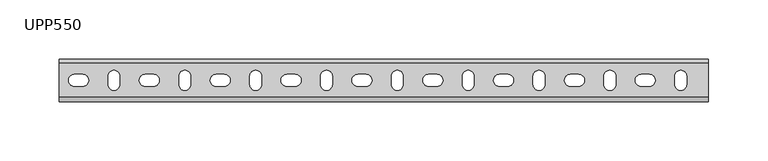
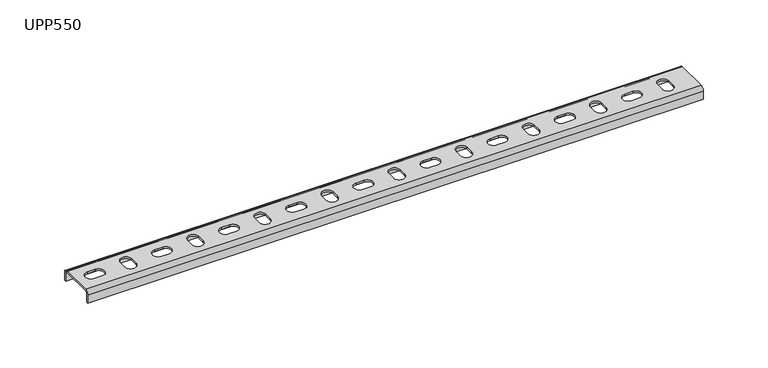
"""IFC4 building model written with IfcOpenShell, lengths in millimetres: proxy geometry, КМ Профиль_Универсальный поддерживающий профиль UPP : UPP550."""

from ifc_helpers import new_model, si_unit, frame, origin, place, context, project, spatial, polyline, circle_curve, source, transform, mapped, element, save
from ifc_brep_helpers import plane_surface, cylinder_surface, revolved_surface, advanced_brep


def upp550_d4d7eb24(model_context):
    return source(origin(), model_context, "Body", "AdvancedBrep", [
        advanced_brep(
        [(0.0, 16.5, -3.5), (0.0, 14.5, -1.5), (0.0, -14.5, -1.5), (0.0, -16.5, -3.5), (0.0, -16.5, -11.0), (0.0, -18.0, -11.0), (0.0, -18.0, -3.5), (0.0, -14.5, 0.0), (0.0, 14.5, 0.0), (0.0, 18.0, -3.5), (0.0, 18.0, -11.0), (0.0, 16.5, -11.0), (550.0, 14.5, -1.5), (550.0, 16.5, -3.5), (550.0, 16.5, -11.0), (550.0, 18.0, -11.0), (550.0, 18.0, -3.5), (550.0, 14.5, 0.0), (550.0, -14.5, 0.0), (550.0, -18.0, -3.5), (550.0, -18.0, -11.0), (550.0, -16.5, -11.0), (550.0, -16.5, -3.5), (550.0, -14.5, -1.5), (80.0, 5.0, -1.5), (73.0, 5.0, -1.5), (73.0, -5.0, -1.5), (80.0, -5.0, -1.5), (140.0, 5.0, -1.5), (133.0, 5.0, -1.5), (133.0, -5.0, -1.5), (140.0, -5.0, -1.5), (101.5, 3.5, -1.5), (101.5, -3.5, -1.5), (111.5, -3.5, -1.5), (111.5, 3.5, -1.5), (200.0, 5.0, -1.5), (193.0, 5.0, -1.5), (193.0, -5.0, -1.5), (200.0, -5.0, -1.5), (260.0, 5.0, -1.5), (253.0, 5.0, -1.5), (253.0, -5.0, -1.5), (260.0, -5.0, -1.5), (320.0, 5.0, -1.5), (313.0, 5.0, -1.5), (313.0, -5.0, -1.5), (320.0, -5.0, -1.5), (380.0, 5.0, -1.5), (373.0, 5.0, -1.5), (373.0, -5.0, -1.5), (380.0, -5.0, -1.5), (440.0, 5.0, -1.5), (433.0, 5.0, -1.5), (433.0, -5.0, -1.5), (440.0, -5.0, -1.5), (500.0, 5.0, -1.5), (493.0, 5.0, -1.5), (493.0, -5.0, -1.5), (500.0, -5.0, -1.5), (161.5, 3.5, -1.5), (161.5, -3.5, -1.5), (171.5, -3.5, -1.5), (171.5, 3.5, -1.5), (221.5, 3.5, -1.5), (221.5, -3.5, -1.5), (231.5, -3.5, -1.5), (231.5, 3.5, -1.5), (281.5, 3.5, -1.5), (281.5, -3.5, -1.5), (291.5, -3.5, -1.5), (291.5, 3.5, -1.5), (341.5, 3.5, -1.5), (341.5, -3.5, -1.5), (351.5, -3.5, -1.5), (351.5, 3.5, -1.5), (401.5, 3.5, -1.5), (401.5, -3.5, -1.5), (411.5, -3.5, -1.5), (411.5, 3.5, -1.5), (461.5, 3.5, -1.5), (461.5, -3.5, -1.5), (471.5, -3.5, -1.5), (471.5, 3.5, -1.5), (521.5, 3.5, -1.5), (521.5, -3.5, -1.5), (531.5, -3.5, -1.5), (531.5, 3.5, -1.5), (41.5, 3.5, -1.5), (41.5, -3.5, -1.5), (51.5, -3.5, -1.5), (51.5, 3.5, -1.5), (20.0, 5.0, -1.5), (13.0, 5.0, -1.5), (13.0, -5.0, -1.5), (20.0, -5.0, -1.5), (73.0, 5.0, 0.0), (80.0, 5.0, 0.0), (80.0, -5.0, 0.0), (73.0, -5.0, 0.0), (133.0, 5.0, 0.0), (140.0, 5.0, 0.0), (140.0, -5.0, 0.0), (133.0, -5.0, 0.0), (101.5, -3.5, 0.0), (101.5, 3.5, 0.0), (111.5, 3.5, 0.0), (111.5, -3.5, 0.0), (193.0, 5.0, 0.0), (200.0, 5.0, 0.0), (200.0, -5.0, 0.0), (193.0, -5.0, 0.0), (253.0, 5.0, 0.0), (260.0, 5.0, 0.0), (260.0, -5.0, 0.0), (253.0, -5.0, 0.0), (313.0, 5.0, 0.0), (320.0, 5.0, 0.0), (320.0, -5.0, 0.0), (313.0, -5.0, 0.0), (373.0, 5.0, 0.0), (380.0, 5.0, 0.0), (380.0, -5.0, 0.0), (373.0, -5.0, 0.0), (433.0, 5.0, 0.0), (440.0, 5.0, 0.0), (440.0, -5.0, 0.0), (433.0, -5.0, 0.0), (493.0, 5.0, 0.0), (500.0, 5.0, 0.0), (500.0, -5.0, 0.0), (493.0, -5.0, 0.0), (161.5, -3.5, 0.0), (161.5, 3.5, 0.0), (171.5, 3.5, 0.0), (171.5, -3.5, 0.0), (221.5, -3.5, 0.0), (221.5, 3.5, 0.0), (231.5, 3.5, 0.0), (231.5, -3.5, 0.0), (281.5, -3.5, 0.0), (281.5, 3.5, 0.0), (291.5, 3.5, 0.0), (291.5, -3.5, 0.0), (341.5, -3.5, 0.0), (341.5, 3.5, 0.0), (351.5, 3.5, 0.0), (351.5, -3.5, 0.0), (401.5, -3.5, 0.0), (401.5, 3.5, 0.0), (411.5, 3.5, 0.0), (411.5, -3.5, 0.0), (461.5, -3.5, 0.0), (461.5, 3.5, 0.0), (471.5, 3.5, 0.0), (471.5, -3.5, 0.0), (521.5, -3.5, 0.0), (521.5, 3.5, 0.0), (531.5, 3.5, 0.0), (531.5, -3.5, 0.0), (41.5, -3.5, 0.0), (41.5, 3.5, 0.0), (51.5, 3.5, 0.0), (51.5, -3.5, 0.0), (13.0, 5.0, 0.0), (20.0, 5.0, 0.0), (20.0, -5.0, 0.0), (13.0, -5.0, 0.0)],
        [
            (0, 1, circle_curve(frame((0.0, 14.5, -3.5), z_axis=(1.0, 0.0, 0.0), x_axis=(0.0, 1.0, 0.0)), 2.0)),
            (1, 2),
            (2, 3, circle_curve(frame((0.0, -14.5, -3.5), z_axis=(1.0, 0.0, 0.0), x_axis=(0.0, 1.0, 0.0)), 2.0)),
            (3, 4),
            (4, 5),
            (5, 6),
            (6, 7, circle_curve(frame((0.0, -14.5, -3.5), z_axis=(-1.0, 0.0, 0.0), x_axis=(0.0, 1.0, 0.0)), 3.5)),
            (7, 8),
            (8, 9, circle_curve(frame((0.0, 14.5, -3.5), z_axis=(-1.0, 0.0, 0.0), x_axis=(0.0, 1.0, 0.0)), 3.5)),
            (9, 10),
            (10, 11),
            (11, 0),
            (12, 13, circle_curve(frame((550.0, 14.5, -3.5), z_axis=(-1.0, 0.0, 0.0), x_axis=(0.0, 1.0, 0.0)), 2.0)),
            (13, 14),
            (14, 15),
            (15, 16),
            (16, 17, circle_curve(frame((550.0, 14.5, -3.5), z_axis=(1.0, 0.0, 0.0), x_axis=(0.0, 1.0, 0.0)), 3.5)),
            (17, 18),
            (18, 19, circle_curve(frame((550.0, -14.5, -3.5), z_axis=(1.0, 0.0, 0.0), x_axis=(0.0, 1.0, 0.0)), 3.5)),
            (19, 20),
            (20, 21),
            (21, 22),
            (22, 23, circle_curve(frame((550.0, -14.5, -3.5), z_axis=(-1.0, 0.0, 0.0), x_axis=(0.0, 1.0, 0.0)), 2.0)),
            (23, 12),
            (0, 13),
            (12, 1),
            (23, 2),
            (24, 25),
            (25, 26, circle_curve(frame((73.0, 0.0, -1.5), z_axis=(0.0, 0.0, 1.0), x_axis=(1.0, 0.0, 0.0)), 5.0)),
            (26, 27),
            (27, 24, circle_curve(frame((80.0, 0.0, -1.5), z_axis=(0.0, 0.0, 1.0), x_axis=(1.0, 0.0, 0.0)), 5.0)),
            (28, 29),
            (29, 30, circle_curve(frame((133.0, 0.0, -1.5), z_axis=(0.0, 0.0, 1.0), x_axis=(1.0, 0.0, 0.0)), 5.0)),
            (30, 31),
            (31, 28, circle_curve(frame((140.0, 0.0, -1.5), z_axis=(0.0, 0.0, 1.0), x_axis=(1.0, 0.0, 0.0)), 5.0)),
            (32, 33),
            (33, 34, circle_curve(frame((106.5, -3.5, -1.5), z_axis=(0.0, 0.0, 1.0), x_axis=(0.0, 1.0, 0.0)), 5.0)),
            (34, 35),
            (35, 32, circle_curve(frame((106.5, 3.5, -1.5), z_axis=(0.0, 0.0, 1.0), x_axis=(0.0, 1.0, 0.0)), 5.0)),
            (36, 37),
            (37, 38, circle_curve(frame((193.0, 0.0, -1.5), z_axis=(0.0, 0.0, 1.0), x_axis=(1.0, 0.0, 0.0)), 5.0)),
            (38, 39),
            (39, 36, circle_curve(frame((200.0, 0.0, -1.5), z_axis=(0.0, 0.0, 1.0), x_axis=(1.0, 0.0, 0.0)), 5.0)),
            (40, 41),
            (41, 42, circle_curve(frame((253.0, 0.0, -1.5), z_axis=(0.0, 0.0, 1.0), x_axis=(1.0, 0.0, 0.0)), 5.0)),
            (42, 43),
            (43, 40, circle_curve(frame((260.0, 0.0, -1.5), z_axis=(0.0, 0.0, 1.0), x_axis=(1.0, 0.0, 0.0)), 5.0)),
            (44, 45),
            (45, 46, circle_curve(frame((313.0, 0.0, -1.5), z_axis=(0.0, 0.0, 1.0), x_axis=(1.0, 0.0, 0.0)), 5.0)),
            (46, 47),
            (47, 44, circle_curve(frame((320.0, 0.0, -1.5), z_axis=(0.0, 0.0, 1.0), x_axis=(1.0, 0.0, 0.0)), 5.0)),
            (48, 49),
            (49, 50, circle_curve(frame((373.0, 0.0, -1.5), z_axis=(0.0, 0.0, 1.0), x_axis=(1.0, 0.0, 0.0)), 5.0)),
            (50, 51),
            (51, 48, circle_curve(frame((380.0, 0.0, -1.5), z_axis=(0.0, 0.0, 1.0), x_axis=(1.0, 0.0, 0.0)), 5.0)),
            (52, 53),
            (53, 54, circle_curve(frame((433.0, 0.0, -1.5), z_axis=(0.0, 0.0, 1.0), x_axis=(1.0, 0.0, 0.0)), 5.0)),
            (54, 55),
            (55, 52, circle_curve(frame((440.0, 0.0, -1.5), z_axis=(0.0, 0.0, 1.0), x_axis=(1.0, 0.0, 0.0)), 5.0)),
            (56, 57),
            (57, 58, circle_curve(frame((493.0, 0.0, -1.5), z_axis=(0.0, 0.0, 1.0), x_axis=(1.0, 0.0, 0.0)), 5.0)),
            (58, 59),
            (59, 56, circle_curve(frame((500.0, 0.0, -1.5), z_axis=(0.0, 0.0, 1.0), x_axis=(1.0, 0.0, 0.0)), 5.0)),
            (60, 61),
            (61, 62, circle_curve(frame((166.5, -3.5, -1.5), z_axis=(0.0, 0.0, 1.0), x_axis=(0.0, 1.0, 0.0)), 5.0)),
            (62, 63),
            (63, 60, circle_curve(frame((166.5, 3.5, -1.5), z_axis=(0.0, 0.0, 1.0), x_axis=(0.0, 1.0, 0.0)), 5.0)),
            (64, 65),
            (65, 66, circle_curve(frame((226.5, -3.5, -1.5), z_axis=(0.0, 0.0, 1.0), x_axis=(0.0, 1.0, 0.0)), 5.0)),
            (66, 67),
            (67, 64, circle_curve(frame((226.5, 3.5, -1.5), z_axis=(0.0, 0.0, 1.0), x_axis=(0.0, 1.0, 0.0)), 5.0)),
            (68, 69),
            (69, 70, circle_curve(frame((286.5, -3.5, -1.5), z_axis=(0.0, 0.0, 1.0), x_axis=(0.0, 1.0, 0.0)), 5.0)),
            (70, 71),
            (71, 68, circle_curve(frame((286.5, 3.5, -1.5), z_axis=(0.0, 0.0, 1.0), x_axis=(0.0, 1.0, 0.0)), 5.0)),
            (72, 73),
            (73, 74, circle_curve(frame((346.5, -3.5, -1.5), z_axis=(0.0, 0.0, 1.0), x_axis=(0.0, 1.0, 0.0)), 5.0)),
            (74, 75),
            (75, 72, circle_curve(frame((346.5, 3.5, -1.5), z_axis=(0.0, 0.0, 1.0), x_axis=(0.0, 1.0, 0.0)), 5.0)),
            (76, 77),
            (77, 78, circle_curve(frame((406.5, -3.5, -1.5), z_axis=(0.0, 0.0, 1.0), x_axis=(0.0, 1.0, 0.0)), 5.0)),
            (78, 79),
            (79, 76, circle_curve(frame((406.5, 3.5, -1.5), z_axis=(0.0, 0.0, 1.0), x_axis=(0.0, 1.0, 0.0)), 5.0)),
            (80, 81),
            (81, 82, circle_curve(frame((466.5, -3.5, -1.5), z_axis=(0.0, 0.0, 1.0), x_axis=(0.0, 1.0, 0.0)), 5.0)),
            (82, 83),
            (83, 80, circle_curve(frame((466.5, 3.5, -1.5), z_axis=(0.0, 0.0, 1.0), x_axis=(0.0, 1.0, 0.0)), 5.0)),
            (84, 85),
            (85, 86, circle_curve(frame((526.5, -3.5, -1.5), z_axis=(0.0, 0.0, 1.0), x_axis=(0.0, 1.0, 0.0)), 5.0)),
            (86, 87),
            (87, 84, circle_curve(frame((526.5, 3.5, -1.5), z_axis=(0.0, 0.0, 1.0), x_axis=(0.0, 1.0, 0.0)), 5.0)),
            (88, 89),
            (89, 90, circle_curve(frame((46.5, -3.5, -1.5), z_axis=(0.0, 0.0, 1.0), x_axis=(0.0, 1.0, 0.0)), 5.0)),
            (90, 91),
            (91, 88, circle_curve(frame((46.5, 3.5, -1.5), z_axis=(0.0, 0.0, 1.0), x_axis=(0.0, 1.0, 0.0)), 5.0)),
            (92, 93),
            (93, 94, circle_curve(frame((13.0, 0.0, -1.5), z_axis=(0.0, 0.0, 1.0), x_axis=(1.0, 0.0, 0.0)), 5.0)),
            (94, 95),
            (95, 92, circle_curve(frame((20.0, 0.0, -1.5), z_axis=(0.0, 0.0, 1.0), x_axis=(1.0, 0.0, 0.0)), 5.0)),
            (22, 3),
            (21, 4),
            (20, 5),
            (19, 6),
            (18, 7),
            (17, 8),
            (96, 97),
            (97, 98, circle_curve(frame((80.0, 0.0, 0.0), z_axis=(0.0, 0.0, -1.0), x_axis=(1.0, 0.0, 0.0)), 5.0)),
            (98, 99),
            (99, 96, circle_curve(frame((73.0, 0.0, 0.0), z_axis=(0.0, 0.0, -1.0), x_axis=(1.0, 0.0, 0.0)), 5.0)),
            (100, 101),
            (101, 102, circle_curve(frame((140.0, 0.0, 0.0), z_axis=(0.0, 0.0, -1.0), x_axis=(1.0, 0.0, 0.0)), 5.0)),
            (102, 103),
            (103, 100, circle_curve(frame((133.0, 0.0, 0.0), z_axis=(0.0, 0.0, -1.0), x_axis=(1.0, 0.0, 0.0)), 5.0)),
            (104, 105),
            (105, 106, circle_curve(frame((106.5, 3.5, 0.0), z_axis=(0.0, 0.0, -1.0), x_axis=(0.0, 1.0, 0.0)), 5.0)),
            (106, 107),
            (107, 104, circle_curve(frame((106.5, -3.5, 0.0), z_axis=(0.0, 0.0, -1.0), x_axis=(0.0, 1.0, 0.0)), 5.0)),
            (108, 109),
            (109, 110, circle_curve(frame((200.0, 0.0, 0.0), z_axis=(0.0, 0.0, -1.0), x_axis=(1.0, 0.0, 0.0)), 5.0)),
            (110, 111),
            (111, 108, circle_curve(frame((193.0, 0.0, 0.0), z_axis=(0.0, 0.0, -1.0), x_axis=(1.0, 0.0, 0.0)), 5.0)),
            (112, 113),
            (113, 114, circle_curve(frame((260.0, 0.0, 0.0), z_axis=(0.0, 0.0, -1.0), x_axis=(1.0, 0.0, 0.0)), 5.0)),
            (114, 115),
            (115, 112, circle_curve(frame((253.0, 0.0, 0.0), z_axis=(0.0, 0.0, -1.0), x_axis=(1.0, 0.0, 0.0)), 5.0)),
            (116, 117),
            (117, 118, circle_curve(frame((320.0, 0.0, 0.0), z_axis=(0.0, 0.0, -1.0), x_axis=(1.0, 0.0, 0.0)), 5.0)),
            (118, 119),
            (119, 116, circle_curve(frame((313.0, 0.0, 0.0), z_axis=(0.0, 0.0, -1.0), x_axis=(1.0, 0.0, 0.0)), 5.0)),
            (120, 121),
            (121, 122, circle_curve(frame((380.0, 0.0, 0.0), z_axis=(0.0, 0.0, -1.0), x_axis=(1.0, 0.0, 0.0)), 5.0)),
            (122, 123),
            (123, 120, circle_curve(frame((373.0, 0.0, 0.0), z_axis=(0.0, 0.0, -1.0), x_axis=(1.0, 0.0, 0.0)), 5.0)),
            (124, 125),
            (125, 126, circle_curve(frame((440.0, 0.0, 0.0), z_axis=(0.0, 0.0, -1.0), x_axis=(1.0, 0.0, 0.0)), 5.0)),
            (126, 127),
            (127, 124, circle_curve(frame((433.0, 0.0, 0.0), z_axis=(0.0, 0.0, -1.0), x_axis=(1.0, 0.0, 0.0)), 5.0)),
            (128, 129),
            (129, 130, circle_curve(frame((500.0, 0.0, 0.0), z_axis=(0.0, 0.0, -1.0), x_axis=(1.0, 0.0, 0.0)), 5.0)),
            (130, 131),
            (131, 128, circle_curve(frame((493.0, 0.0, 0.0), z_axis=(0.0, 0.0, -1.0), x_axis=(1.0, 0.0, 0.0)), 5.0)),
            (132, 133),
            (133, 134, circle_curve(frame((166.5, 3.5, 0.0), z_axis=(0.0, 0.0, -1.0), x_axis=(0.0, 1.0, 0.0)), 5.0)),
            (134, 135),
            (135, 132, circle_curve(frame((166.5, -3.5, 0.0), z_axis=(0.0, 0.0, -1.0), x_axis=(0.0, 1.0, 0.0)), 5.0)),
            (136, 137),
            (137, 138, circle_curve(frame((226.5, 3.5, 0.0), z_axis=(0.0, 0.0, -1.0), x_axis=(0.0, 1.0, 0.0)), 5.0)),
            (138, 139),
            (139, 136, circle_curve(frame((226.5, -3.5, 0.0), z_axis=(0.0, 0.0, -1.0), x_axis=(0.0, 1.0, 0.0)), 5.0)),
            (140, 141),
            (141, 142, circle_curve(frame((286.5, 3.5, 0.0), z_axis=(0.0, 0.0, -1.0), x_axis=(0.0, 1.0, 0.0)), 5.0)),
            (142, 143),
            (143, 140, circle_curve(frame((286.5, -3.5, 0.0), z_axis=(0.0, 0.0, -1.0), x_axis=(0.0, 1.0, 0.0)), 5.0)),
            (144, 145),
            (145, 146, circle_curve(frame((346.5, 3.5, 0.0), z_axis=(0.0, 0.0, -1.0), x_axis=(0.0, 1.0, 0.0)), 5.0)),
            (146, 147),
            (147, 144, circle_curve(frame((346.5, -3.5, 0.0), z_axis=(0.0, 0.0, -1.0), x_axis=(0.0, 1.0, 0.0)), 5.0)),
            (148, 149),
            (149, 150, circle_curve(frame((406.5, 3.5, 0.0), z_axis=(0.0, 0.0, -1.0), x_axis=(0.0, 1.0, 0.0)), 5.0)),
            (150, 151),
            (151, 148, circle_curve(frame((406.5, -3.5, 0.0), z_axis=(0.0, 0.0, -1.0), x_axis=(0.0, 1.0, 0.0)), 5.0)),
            (152, 153),
            (153, 154, circle_curve(frame((466.5, 3.5, 0.0), z_axis=(0.0, 0.0, -1.0), x_axis=(0.0, 1.0, 0.0)), 5.0)),
            (154, 155),
            (155, 152, circle_curve(frame((466.5, -3.5, 0.0), z_axis=(0.0, 0.0, -1.0), x_axis=(0.0, 1.0, 0.0)), 5.0)),
            (156, 157),
            (157, 158, circle_curve(frame((526.5, 3.5, 0.0), z_axis=(0.0, 0.0, -1.0), x_axis=(0.0, 1.0, 0.0)), 5.0)),
            (158, 159),
            (159, 156, circle_curve(frame((526.5, -3.5, 0.0), z_axis=(0.0, 0.0, -1.0), x_axis=(0.0, 1.0, 0.0)), 5.0)),
            (160, 161),
            (161, 162, circle_curve(frame((46.5, 3.5, 0.0), z_axis=(0.0, 0.0, -1.0), x_axis=(0.0, 1.0, 0.0)), 5.0)),
            (162, 163),
            (163, 160, circle_curve(frame((46.5, -3.5, 0.0), z_axis=(0.0, 0.0, -1.0), x_axis=(0.0, 1.0, 0.0)), 5.0)),
            (164, 165),
            (165, 166, circle_curve(frame((20.0, 0.0, 0.0), z_axis=(0.0, 0.0, -1.0), x_axis=(1.0, 0.0, 0.0)), 5.0)),
            (166, 167),
            (167, 164, circle_curve(frame((13.0, 0.0, 0.0), z_axis=(0.0, 0.0, -1.0), x_axis=(1.0, 0.0, 0.0)), 5.0)),
            (16, 9),
            (15, 10),
            (14, 11),
            (96, 25),
            (24, 97),
            (99, 26),
            (98, 27),
            (100, 29),
            (28, 101),
            (103, 30),
            (102, 31),
            (104, 33),
            (32, 105),
            (107, 34),
            (106, 35),
            (108, 37),
            (36, 109),
            (111, 38),
            (110, 39),
            (112, 41),
            (40, 113),
            (115, 42),
            (114, 43),
            (116, 45),
            (44, 117),
            (119, 46),
            (118, 47),
            (120, 49),
            (48, 121),
            (123, 50),
            (122, 51),
            (124, 53),
            (52, 125),
            (127, 54),
            (126, 55),
            (128, 57),
            (56, 129),
            (131, 58),
            (130, 59),
            (132, 61),
            (60, 133),
            (135, 62),
            (134, 63),
            (136, 65),
            (64, 137),
            (139, 66),
            (138, 67),
            (140, 69),
            (68, 141),
            (143, 70),
            (142, 71),
            (144, 73),
            (72, 145),
            (147, 74),
            (146, 75),
            (148, 77),
            (76, 149),
            (151, 78),
            (150, 79),
            (152, 81),
            (80, 153),
            (155, 82),
            (154, 83),
            (156, 85),
            (84, 157),
            (159, 86),
            (158, 87),
            (160, 89),
            (88, 161),
            (163, 90),
            (162, 91),
            (164, 93),
            (92, 165),
            (167, 94),
            (166, 95),
        ],
        [
            plane_surface(frame((0.0, 0.0, 0.0), z_axis=(-1.0, 0.0, 0.0), x_axis=(0.0, 0.0, 1.0))),
            plane_surface(frame((550.0, 0.0, 0.0), z_axis=(1.0, 0.0, 0.0), x_axis=(0.0, 0.0, 1.0))),
            revolved_surface(polyline([(550.0, 16.5, -3.5), (0.0, 16.5, -3.5)]), (0.0, 14.5, -3.5), (1.0, 0.0, 0.0)),
            plane_surface(frame((0.0, 14.5, -1.5), z_axis=(0.0, 0.0, -1.0), x_axis=(1.0, 0.0, 0.0))),
            revolved_surface(polyline([(550.0, -12.5, -3.5), (0.0, -12.5, -3.5)]), (0.0, -14.5, -3.5), (1.0, 0.0, 0.0)),
            plane_surface(frame((0.0, -16.5, -3.5), z_axis=(0.0, 1.0, 0.0), x_axis=(1.0, 0.0, 0.0))),
            plane_surface(frame((0.0, -16.5, -11.0), z_axis=(0.0, 0.0, -1.0), x_axis=(1.0, 0.0, 0.0))),
            plane_surface(frame((0.0, -18.0, -11.0), z_axis=(0.0, -1.0, 0.0), x_axis=(1.0, 0.0, 0.0))),
            cylinder_surface(frame((0.0, -14.5, -3.5), z_axis=(-1.0, 0.0, 0.0), x_axis=(0.0, 1.0, 0.0)), 3.5),
            plane_surface(frame((0.0, -14.5, 0.0), z_axis=(0.0, 0.0, 1.0), x_axis=(1.0, 0.0, 0.0))),
            cylinder_surface(frame((0.0, 14.5, -3.5), z_axis=(-1.0, 0.0, 0.0), x_axis=(0.0, 1.0, 0.0)), 3.5),
            plane_surface(frame((0.0, 18.0, -3.5), z_axis=(0.0, 1.0, 0.0), x_axis=(1.0, 0.0, 0.0))),
            plane_surface(frame((0.0, 18.0, -11.0), z_axis=(0.0, 0.0, -1.0), x_axis=(1.0, 0.0, 0.0))),
            plane_surface(frame((0.0, 16.5, -11.0), z_axis=(0.0, -1.0, 0.0), x_axis=(1.0, 0.0, 0.0))),
            plane_surface(frame((80.0, 5.0, 0.0), z_axis=(0.0, -1.0, 0.0), x_axis=(0.0, 0.0, -1.0))),
            revolved_surface(polyline([(78.0, 0.0, 0.0), (78.0, 0.0, -1.5)]), (73.0, 0.0, -1.5), (0.0, 0.0, 1.0)),
            plane_surface(frame((73.0, -5.0, 0.0), z_axis=(0.0, 1.0, 0.0), x_axis=(0.0, 0.0, -1.0))),
            revolved_surface(polyline([(85.0, 0.0, 0.0), (85.0, 0.0, -1.5)]), (80.0, 0.0, -1.5), (0.0, 0.0, 1.0)),
            plane_surface(frame((140.0, 5.0, 0.0), z_axis=(0.0, -1.0, 0.0), x_axis=(0.0, 0.0, -1.0))),
            revolved_surface(polyline([(138.0, 0.0, 0.0), (138.0, 0.0, -1.5)]), (133.0, 0.0, -1.5), (0.0, 0.0, 1.0)),
            plane_surface(frame((133.0, -5.0, 0.0), z_axis=(0.0, 1.0, 0.0), x_axis=(0.0, 0.0, -1.0))),
            revolved_surface(polyline([(145.0, 0.0, 0.0), (145.0, 0.0, -1.5)]), (140.0, 0.0, -1.5), (0.0, 0.0, 1.0)),
            plane_surface(frame((101.5, 3.5, 0.0), z_axis=(1.0, 0.0, 0.0), x_axis=(0.0, 0.0, -1.0))),
            revolved_surface(polyline([(106.5, 1.5, 0.0), (106.5, 1.5, -1.5)]), (106.5, -3.5, -1.5), (0.0, 0.0, 1.0)),
            plane_surface(frame((111.5, -3.5, 0.0), z_axis=(-1.0, 0.0, 0.0), x_axis=(0.0, 0.0, -1.0))),
            revolved_surface(polyline([(106.5, 8.5, 0.0), (106.5, 8.5, -1.5)]), (106.5, 3.5, -1.5), (0.0, 0.0, 1.0)),
            plane_surface(frame((200.0, 5.0, 0.0), z_axis=(0.0, -1.0, 0.0), x_axis=(0.0, 0.0, -1.0))),
            revolved_surface(polyline([(198.0, 0.0, 0.0), (198.0, 0.0, -1.5)]), (193.0, 0.0, -1.5), (0.0, 0.0, 1.0)),
            plane_surface(frame((193.0, -5.0, 0.0), z_axis=(0.0, 1.0, 0.0), x_axis=(0.0, 0.0, -1.0))),
            revolved_surface(polyline([(205.0, 0.0, 0.0), (205.0, 0.0, -1.5)]), (200.0, 0.0, -1.5), (0.0, 0.0, 1.0)),
            plane_surface(frame((260.0, 5.0, 0.0), z_axis=(0.0, -1.0, 0.0), x_axis=(0.0, 0.0, -1.0))),
            revolved_surface(polyline([(258.0, 0.0, 0.0), (258.0, 0.0, -1.5)]), (253.0, 0.0, -1.5), (0.0, 0.0, 1.0)),
            plane_surface(frame((253.0, -5.0, 0.0), z_axis=(0.0, 1.0, 0.0), x_axis=(0.0, 0.0, -1.0))),
            revolved_surface(polyline([(265.0, 0.0, 0.0), (265.0, 0.0, -1.5)]), (260.0, 0.0, -1.5), (0.0, 0.0, 1.0)),
            plane_surface(frame((320.0, 5.0, 0.0), z_axis=(0.0, -1.0, 0.0), x_axis=(0.0, 0.0, -1.0))),
            revolved_surface(polyline([(318.0, 0.0, 0.0), (318.0, 0.0, -1.5)]), (313.0, 0.0, -1.5), (0.0, 0.0, 1.0)),
            plane_surface(frame((313.0, -5.0, 0.0), z_axis=(0.0, 1.0, 0.0), x_axis=(0.0, 0.0, -1.0))),
            revolved_surface(polyline([(325.0, 0.0, 0.0), (325.0, 0.0, -1.5)]), (320.0, 0.0, -1.5), (0.0, 0.0, 1.0)),
            plane_surface(frame((380.0, 5.0, 0.0), z_axis=(0.0, -1.0, 0.0), x_axis=(0.0, 0.0, -1.0))),
            revolved_surface(polyline([(378.0, 0.0, 0.0), (378.0, 0.0, -1.5)]), (373.0, 0.0, -1.5), (0.0, 0.0, 1.0)),
            plane_surface(frame((373.0, -5.0, 0.0), z_axis=(0.0, 1.0, 0.0), x_axis=(0.0, 0.0, -1.0))),
            revolved_surface(polyline([(385.0, 0.0, 0.0), (385.0, 0.0, -1.5)]), (380.0, 0.0, -1.5), (0.0, 0.0, 1.0)),
            plane_surface(frame((440.0, 5.0, 0.0), z_axis=(0.0, -1.0, 0.0), x_axis=(0.0, 0.0, -1.0))),
            revolved_surface(polyline([(438.0, 0.0, 0.0), (438.0, 0.0, -1.5)]), (433.0, 0.0, -1.5), (0.0, 0.0, 1.0)),
            plane_surface(frame((433.0, -5.0, 0.0), z_axis=(0.0, 1.0, 0.0), x_axis=(0.0, 0.0, -1.0))),
            revolved_surface(polyline([(445.0, 0.0, 0.0), (445.0, 0.0, -1.5)]), (440.0, 0.0, -1.5), (0.0, 0.0, 1.0)),
            plane_surface(frame((500.0, 5.0, 0.0), z_axis=(0.0, -1.0, 0.0), x_axis=(0.0, 0.0, -1.0))),
            revolved_surface(polyline([(498.0, 0.0, 0.0), (498.0, 0.0, -1.5)]), (493.0, 0.0, -1.5), (0.0, 0.0, 1.0)),
            plane_surface(frame((493.0, -5.0, 0.0), z_axis=(0.0, 1.0, 0.0), x_axis=(0.0, 0.0, -1.0))),
            revolved_surface(polyline([(505.0, 0.0, 0.0), (505.0, 0.0, -1.5)]), (500.0, 0.0, -1.5), (0.0, 0.0, 1.0)),
            plane_surface(frame((161.5, 3.5, 0.0), z_axis=(1.0, 0.0, 0.0), x_axis=(0.0, 0.0, -1.0))),
            revolved_surface(polyline([(166.5, 1.5, 0.0), (166.5, 1.5, -1.5)]), (166.5, -3.5, -1.5), (0.0, 0.0, 1.0)),
            plane_surface(frame((171.5, -3.5, 0.0), z_axis=(-1.0, 0.0, 0.0), x_axis=(0.0, 0.0, -1.0))),
            revolved_surface(polyline([(166.5, 8.5, 0.0), (166.5, 8.5, -1.5)]), (166.5, 3.5, -1.5), (0.0, 0.0, 1.0)),
            plane_surface(frame((221.5, 3.5, 0.0), z_axis=(1.0, 0.0, 0.0), x_axis=(0.0, 0.0, -1.0))),
            revolved_surface(polyline([(226.5, 1.5, 0.0), (226.5, 1.5, -1.5)]), (226.5, -3.5, -1.5), (0.0, 0.0, 1.0)),
            plane_surface(frame((231.5, -3.5, 0.0), z_axis=(-1.0, 0.0, 0.0), x_axis=(0.0, 0.0, -1.0))),
            revolved_surface(polyline([(226.5, 8.5, 0.0), (226.5, 8.5, -1.5)]), (226.5, 3.5, -1.5), (0.0, 0.0, 1.0)),
            plane_surface(frame((281.5, 3.5, 0.0), z_axis=(1.0, 0.0, 0.0), x_axis=(0.0, 0.0, -1.0))),
            revolved_surface(polyline([(286.5, 1.5, 0.0), (286.5, 1.5, -1.5)]), (286.5, -3.5, -1.5), (0.0, 0.0, 1.0)),
            plane_surface(frame((291.5, -3.5, 0.0), z_axis=(-1.0, 0.0, 0.0), x_axis=(0.0, 0.0, -1.0))),
            revolved_surface(polyline([(286.5, 8.5, 0.0), (286.5, 8.5, -1.5)]), (286.5, 3.5, -1.5), (0.0, 0.0, 1.0)),
            plane_surface(frame((341.5, 3.5, 0.0), z_axis=(1.0, 0.0, 0.0), x_axis=(0.0, 0.0, -1.0))),
            revolved_surface(polyline([(346.5, 1.5, 0.0), (346.5, 1.5, -1.5)]), (346.5, -3.5, -1.5), (0.0, 0.0, 1.0)),
            plane_surface(frame((351.5, -3.5, 0.0), z_axis=(-1.0, 0.0, 0.0), x_axis=(0.0, 0.0, -1.0))),
            revolved_surface(polyline([(346.5, 8.5, 0.0), (346.5, 8.5, -1.5)]), (346.5, 3.5, -1.5), (0.0, 0.0, 1.0)),
            plane_surface(frame((401.5, 3.5, 0.0), z_axis=(1.0, 0.0, 0.0), x_axis=(0.0, 0.0, -1.0))),
            revolved_surface(polyline([(406.5, 1.5, 0.0), (406.5, 1.5, -1.5)]), (406.5, -3.5, -1.5), (0.0, 0.0, 1.0)),
            plane_surface(frame((411.5, -3.5, 0.0), z_axis=(-1.0, 0.0, 0.0), x_axis=(0.0, 0.0, -1.0))),
            revolved_surface(polyline([(406.5, 8.5, 0.0), (406.5, 8.5, -1.5)]), (406.5, 3.5, -1.5), (0.0, 0.0, 1.0)),
            plane_surface(frame((461.5, 3.5, 0.0), z_axis=(1.0, 0.0, 0.0), x_axis=(0.0, 0.0, -1.0))),
            revolved_surface(polyline([(466.5, 1.5, 0.0), (466.5, 1.5, -1.5)]), (466.5, -3.5, -1.5), (0.0, 0.0, 1.0)),
            plane_surface(frame((471.5, -3.5, 0.0), z_axis=(-1.0, 0.0, 0.0), x_axis=(0.0, 0.0, -1.0))),
            revolved_surface(polyline([(466.5, 8.5, 0.0), (466.5, 8.5, -1.5)]), (466.5, 3.5, -1.5), (0.0, 0.0, 1.0)),
            plane_surface(frame((521.5, 3.5, 0.0), z_axis=(1.0, 0.0, 0.0), x_axis=(0.0, 0.0, -1.0))),
            revolved_surface(polyline([(526.5, 1.5, 0.0), (526.5, 1.5, -1.5)]), (526.5, -3.5, -1.5), (0.0, 0.0, 1.0)),
            plane_surface(frame((531.5, -3.5, 0.0), z_axis=(-1.0, 0.0, 0.0), x_axis=(0.0, 0.0, -1.0))),
            revolved_surface(polyline([(526.5, 8.5, 0.0), (526.5, 8.5, -1.5)]), (526.5, 3.5, -1.5), (0.0, 0.0, 1.0)),
            plane_surface(frame((41.5, 3.5, 0.0), z_axis=(1.0, 0.0, 0.0), x_axis=(0.0, 0.0, -1.0))),
            revolved_surface(polyline([(46.5, 1.5, 0.0), (46.5, 1.5, -1.5)]), (46.5, -3.5, -1.5), (0.0, 0.0, 1.0)),
            plane_surface(frame((51.5, -3.5, 0.0), z_axis=(-1.0, 0.0, 0.0), x_axis=(0.0, 0.0, -1.0))),
            revolved_surface(polyline([(46.5, 8.5, 0.0), (46.5, 8.5, -1.5)]), (46.5, 3.5, -1.5), (0.0, 0.0, 1.0)),
            plane_surface(frame((20.0, 5.0, 0.0), z_axis=(0.0, -1.0, 0.0), x_axis=(0.0, 0.0, -1.0))),
            revolved_surface(polyline([(18.0, 0.0, 0.0), (18.0, 0.0, -1.5)]), (13.0, 0.0, -1.5), (0.0, 0.0, 1.0)),
            plane_surface(frame((13.0, -5.0, 0.0), z_axis=(0.0, 1.0, 0.0), x_axis=(0.0, 0.0, -1.0))),
            revolved_surface(polyline([(25.0, 0.0, 0.0), (25.0, 0.0, -1.5)]), (20.0, 0.0, -1.5), (0.0, 0.0, 1.0)),
        ],
        [
            (0, [[1, 2, 3, 4, 5, 6, 7, 8, 9, 10, 11, 12]]),
            (1, [[13, 14, 15, 16, 17, 18, 19, 20, 21, 22, 23, 24]]),
            (2, [[-1, 25, -13, 26]]),
            (3, [[-2, -26, -24, 27], [28, 29, 30, 31], [32, 33, 34, 35], [36, 37, 38, 39], [40, 41, 42, 43], [44, 45, 46, 47], [48, 49, 50, 51], [52, 53, 54, 55], [56, 57, 58, 59], [60, 61, 62, 63], [64, 65, 66, 67], [68, 69, 70, 71], [72, 73, 74, 75], [76, 77, 78, 79], [80, 81, 82, 83], [84, 85, 86, 87], [88, 89, 90, 91], [92, 93, 94, 95], [96, 97, 98, 99]]),
            (4, [[-3, -27, -23, 100]]),
            (5, [[-4, -100, -22, 101]]),
            (6, [[-5, -101, -21, 102]]),
            (7, [[-6, -102, -20, 103]]),
            (8, [[-7, -103, -19, 104]]),
            (9, [[-8, -104, -18, 105], [106, 107, 108, 109], [110, 111, 112, 113], [114, 115, 116, 117], [118, 119, 120, 121], [122, 123, 124, 125], [126, 127, 128, 129], [130, 131, 132, 133], [134, 135, 136, 137], [138, 139, 140, 141], [142, 143, 144, 145], [146, 147, 148, 149], [150, 151, 152, 153], [154, 155, 156, 157], [158, 159, 160, 161], [162, 163, 164, 165], [166, 167, 168, 169], [170, 171, 172, 173], [174, 175, 176, 177]]),
            (10, [[-9, -105, -17, 178]]),
            (11, [[-10, -178, -16, 179]]),
            (12, [[-11, -179, -15, 180]]),
            (13, [[-12, -180, -14, -25]]),
            (14, [[181, -28, 182, -106]]),
            (15, [[-181, -109, 183, -29]]),
            (16, [[-183, -108, 184, -30]]),
            (17, [[-182, -31, -184, -107]]),
            (18, [[185, -32, 186, -110]]),
            (19, [[-185, -113, 187, -33]]),
            (20, [[-187, -112, 188, -34]]),
            (21, [[-186, -35, -188, -111]]),
            (22, [[189, -36, 190, -114]]),
            (23, [[-189, -117, 191, -37]]),
            (24, [[-191, -116, 192, -38]]),
            (25, [[-190, -39, -192, -115]]),
            (26, [[193, -40, 194, -118]]),
            (27, [[-193, -121, 195, -41]]),
            (28, [[-195, -120, 196, -42]]),
            (29, [[-194, -43, -196, -119]]),
            (30, [[197, -44, 198, -122]]),
            (31, [[-197, -125, 199, -45]]),
            (32, [[-199, -124, 200, -46]]),
            (33, [[-198, -47, -200, -123]]),
            (34, [[201, -48, 202, -126]]),
            (35, [[-201, -129, 203, -49]]),
            (36, [[-203, -128, 204, -50]]),
            (37, [[-202, -51, -204, -127]]),
            (38, [[205, -52, 206, -130]]),
            (39, [[-205, -133, 207, -53]]),
            (40, [[-207, -132, 208, -54]]),
            (41, [[-206, -55, -208, -131]]),
            (42, [[209, -56, 210, -134]]),
            (43, [[-209, -137, 211, -57]]),
            (44, [[-211, -136, 212, -58]]),
            (45, [[-210, -59, -212, -135]]),
            (46, [[213, -60, 214, -138]]),
            (47, [[-213, -141, 215, -61]]),
            (48, [[-215, -140, 216, -62]]),
            (49, [[-214, -63, -216, -139]]),
            (50, [[217, -64, 218, -142]]),
            (51, [[-217, -145, 219, -65]]),
            (52, [[-219, -144, 220, -66]]),
            (53, [[-218, -67, -220, -143]]),
            (54, [[221, -68, 222, -146]]),
            (55, [[-221, -149, 223, -69]]),
            (56, [[-223, -148, 224, -70]]),
            (57, [[-222, -71, -224, -147]]),
            (58, [[225, -72, 226, -150]]),
            (59, [[-225, -153, 227, -73]]),
            (60, [[-227, -152, 228, -74]]),
            (61, [[-226, -75, -228, -151]]),
            (62, [[229, -76, 230, -154]]),
            (63, [[-229, -157, 231, -77]]),
            (64, [[-231, -156, 232, -78]]),
            (65, [[-230, -79, -232, -155]]),
            (66, [[233, -80, 234, -158]]),
            (67, [[-233, -161, 235, -81]]),
            (68, [[-235, -160, 236, -82]]),
            (69, [[-234, -83, -236, -159]]),
            (70, [[237, -84, 238, -162]]),
            (71, [[-237, -165, 239, -85]]),
            (72, [[-239, -164, 240, -86]]),
            (73, [[-238, -87, -240, -163]]),
            (74, [[241, -88, 242, -166]]),
            (75, [[-241, -169, 243, -89]]),
            (76, [[-243, -168, 244, -90]]),
            (77, [[-242, -91, -244, -167]]),
            (78, [[245, -92, 246, -170]]),
            (79, [[-245, -173, 247, -93]]),
            (80, [[-247, -172, 248, -94]]),
            (81, [[-246, -95, -248, -171]]),
            (82, [[249, -96, 250, -174]]),
            (83, [[-249, -177, 251, -97]]),
            (84, [[-251, -176, 252, -98]]),
            (85, [[-250, -99, -252, -175]]),
        ],
    ),
    ])


if __name__ == "__main__":
    model = new_model("IFC4")
    model_context = context("Model", 3, world=origin())
    ifc_project = project(units=[si_unit("LENGTHUNIT", "METRE", prefix="MILLI")], contexts=[model_context])
    site = spatial("IfcSite", under=ifc_project)
    building = spatial("IfcBuilding", under=site)
    placement = place(None, origin())
    upp550_shape = upp550_d4d7eb24(model_context)
    element("IfcBuildingElementProxy", 1, Name="КМ Профиль_Универсальный поддерживающий профиль UPP : UPP550", ObjectType="КМ Профиль_Универсальный поддерживающий профиль UPP : UPP550", at=placement, inside=building, context=model_context, shape_type="MappedRepresentation", body=[
        mapped(upp550_shape, transform((0.0, 0.0, 0.0), x_axis=(1.0, 0.0, 0.0), y_axis=(0.0, 1.0, 0.0), z_axis=(0.0, 0.0, 1.0))),
    ])
    save(model, "model.ifc")
